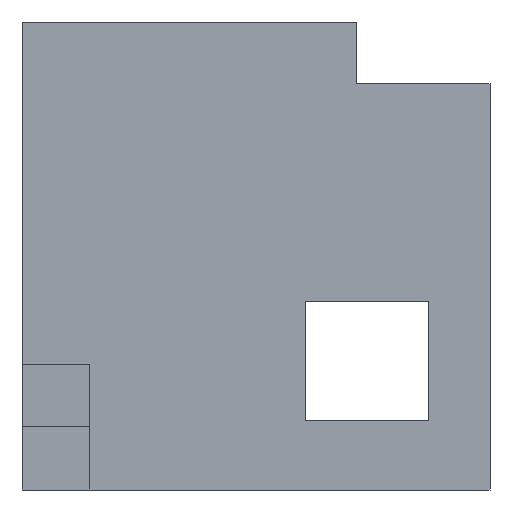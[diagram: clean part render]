
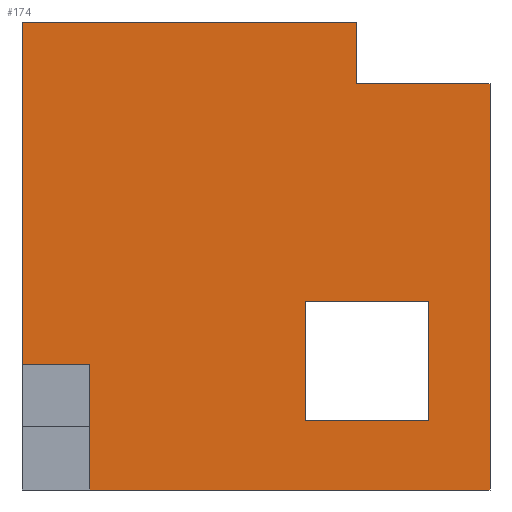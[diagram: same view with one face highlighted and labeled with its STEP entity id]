
A CAD part, left-side view. The second image highlights one B-rep face of the part: STEP entity #174.
In plain terms, the highlighted planar face has unit normal (-1, 0, 0).
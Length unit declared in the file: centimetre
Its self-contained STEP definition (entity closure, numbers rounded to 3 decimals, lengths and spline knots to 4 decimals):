
#1 = VECTOR ( 'NONE', #361, 100. ) ;
#4 = EDGE_CURVE ( 'NONE', #1434, #1042, #486, .T. ) ;
#78 = CARTESIAN_POINT ( 'NONE',  ( 0., 131.8463, 148.3526 ) ) ;
#96 = EDGE_CURVE ( 'NONE', #1219, #1232, #1339, .T. ) ;
#104 = CARTESIAN_POINT ( 'NONE',  ( 0., 1000., 268.689 ) ) ;
#111 = CARTESIAN_POINT ( 'NONE',  ( 0., 855.1713, 0. ) ) ;
#123 = EDGE_LOOP ( 'NONE', ( #754, #773, #828, #198, #516, #838, #503, #378 ) ) ;
#126 = PLANE ( 'NONE',  #579 ) ;
#138 = ORIENTED_EDGE ( 'NONE', *, *, #922, .T. ) ;
#144 = LINE ( 'NONE', #741, #1261 ) ;
#146 = EDGE_CURVE ( 'NONE', #408, #983, #777, .T. ) ;
#165 = EDGE_CURVE ( 'NONE', #370, #804, #215, .T. ) ;
#166 = VECTOR ( 'NONE', #752, 100. ) ;
#169 = ORIENTED_EDGE ( 'NONE', *, *, #478, .T. ) ;
#174 = ADVANCED_FACE ( 'NONE', ( #1327, #320 ), #126, .F. ) ;
#198 = ORIENTED_EDGE ( 'NONE', *, *, #96, .F. ) ;
#200 = CARTESIAN_POINT ( 'NONE',  ( 0., 1000., 1000. ) ) ;
#201 = DIRECTION ( 'NONE',  ( 0., 0., -1. ) ) ;
#215 = LINE ( 'NONE', #224, #1374 ) ;
#216 = DIRECTION ( 'NONE',  ( 0., 1., 0. ) ) ;
#224 = CARTESIAN_POINT ( 'NONE',  ( 0., 131.8463, 148.3526 ) ) ;
#242 = CARTESIAN_POINT ( 'NONE',  ( 0., 285.1789, 1000. ) ) ;
#251 = CARTESIAN_POINT ( 'NONE',  ( 0., 855.1713, 268.689 ) ) ;
#269 = ORIENTED_EDGE ( 'NONE', *, *, #165, .T. ) ;
#273 = DIRECTION ( 'NONE',  ( 0., 0., 1. ) ) ;
#280 = ORIENTED_EDGE ( 'NONE', *, *, #619, .T. ) ;
#315 = DIRECTION ( 'NONE',  ( 0., 1., 0. ) ) ;
#320 = FACE_OUTER_BOUND ( 'NONE', #123, .T. ) ;
#361 = DIRECTION ( 'NONE',  ( 0., 0., -1. ) ) ;
#363 = EDGE_CURVE ( 'NONE', #1042, #1232, #873, .T. ) ;
#365 = VECTOR ( 'NONE', #315, 100. ) ;
#370 = VERTEX_POINT ( 'NONE', #78 ) ;
#378 = ORIENTED_EDGE ( 'NONE', *, *, #146, .T. ) ;
#385 = VECTOR ( 'NONE', #570, 100. ) ;
#389 = DIRECTION ( 'NONE',  ( 0., 0., 1. ) ) ;
#408 = VERTEX_POINT ( 'NONE', #200 ) ;
#432 = DIRECTION ( 'NONE',  ( 0., 0., -1. ) ) ;
#466 = LINE ( 'NONE', #916, #1 ) ;
#478 = EDGE_CURVE ( 'NONE', #703, #370, #466, .T. ) ;
#484 = DIRECTION ( 'NONE',  ( 1., 0., 0. ) ) ;
#486 = LINE ( 'NONE', #251, #794 ) ;
#498 = LINE ( 'NONE', #832, #166 ) ;
#503 = ORIENTED_EDGE ( 'NONE', *, *, #731, .F. ) ;
#516 = ORIENTED_EDGE ( 'NONE', *, *, #1239, .T. ) ;
#570 = DIRECTION ( 'NONE',  ( 0., -1., 0. ) ) ;
#579 = AXIS2_PLACEMENT_3D ( 'NONE', #1165, #484, #1454 ) ;
#619 = EDGE_CURVE ( 'NONE', #804, #1207, #938, .T. ) ;
#652 = CARTESIAN_POINT ( 'NONE',  ( 0., 0., 1000. ) ) ;
#654 = CARTESIAN_POINT ( 'NONE',  ( 0., 0., 0. ) ) ;
#663 = CARTESIAN_POINT ( 'NONE',  ( 0., 0., 867.9736 ) ) ;
#689 = EDGE_CURVE ( 'NONE', #964, #990, #144, .T. ) ;
#703 = VERTEX_POINT ( 'NONE', #1285 ) ;
#731 = EDGE_CURVE ( 'NONE', #408, #990, #498, .T. ) ;
#741 = CARTESIAN_POINT ( 'NONE',  ( 0., 285.1789, 867.9736 ) ) ;
#743 = VECTOR ( 'NONE', #1322, 100. ) ;
#749 = VECTOR ( 'NONE', #432, 100. ) ;
#752 = DIRECTION ( 'NONE',  ( 0., -1., 0. ) ) ;
#754 = ORIENTED_EDGE ( 'NONE', *, *, #1138, .F. ) ;
#773 = ORIENTED_EDGE ( 'NONE', *, *, #4, .T. ) ;
#777 = LINE ( 'NONE', #1231, #955 ) ;
#794 = VECTOR ( 'NONE', #1168, 100. ) ;
#804 = VERTEX_POINT ( 'NONE', #893 ) ;
#821 = DIRECTION ( 'NONE',  ( 0., 1., 0. ) ) ;
#828 = ORIENTED_EDGE ( 'NONE', *, *, #363, .T. ) ;
#832 = CARTESIAN_POINT ( 'NONE',  ( 0., 1000., 1000. ) ) ;
#838 = ORIENTED_EDGE ( 'NONE', *, *, #689, .T. ) ;
#864 = LINE ( 'NONE', #1264, #385 ) ;
#873 = LINE ( 'NONE', #1120, #743 ) ;
#893 = CARTESIAN_POINT ( 'NONE',  ( 0., 394.7014, 148.3526 ) ) ;
#916 = CARTESIAN_POINT ( 'NONE',  ( 0., 131.8463, 148.3526 ) ) ;
#922 = EDGE_CURVE ( 'NONE', #1207, #703, #864, .T. ) ;
#938 = LINE ( 'NONE', #1276, #1146 ) ;
#955 = VECTOR ( 'NONE', #201, 100. ) ;
#964 = VERTEX_POINT ( 'NONE', #1349 ) ;
#974 = CARTESIAN_POINT ( 'NONE',  ( 0., 0., 867.9736 ) ) ;
#983 = VERTEX_POINT ( 'NONE', #104 ) ;
#990 = VERTEX_POINT ( 'NONE', #242 ) ;
#1042 = VERTEX_POINT ( 'NONE', #111 ) ;
#1120 = CARTESIAN_POINT ( 'NONE',  ( 0., 1000., 0. ) ) ;
#1138 = EDGE_CURVE ( 'NONE', #1434, #983, #1193, .T. ) ;
#1146 = VECTOR ( 'NONE', #389, 100. ) ;
#1161 = EDGE_LOOP ( 'NONE', ( #169, #269, #280, #138 ) ) ;
#1165 = CARTESIAN_POINT ( 'NONE',  ( 0., 1000., 1000. ) ) ;
#1168 = DIRECTION ( 'NONE',  ( 0., 0., -1. ) ) ;
#1193 = LINE ( 'NONE', #1270, #1352 ) ;
#1207 = VERTEX_POINT ( 'NONE', #1318 ) ;
#1219 = VERTEX_POINT ( 'NONE', #974 ) ;
#1231 = CARTESIAN_POINT ( 'NONE',  ( 0., 1000., 1000. ) ) ;
#1232 = VERTEX_POINT ( 'NONE', #654 ) ;
#1239 = EDGE_CURVE ( 'NONE', #1219, #964, #1414, .T. ) ;
#1261 = VECTOR ( 'NONE', #273, 100. ) ;
#1264 = CARTESIAN_POINT ( 'NONE',  ( 0., 131.8463, 403.7409 ) ) ;
#1270 = CARTESIAN_POINT ( 'NONE',  ( 0., 855.1713, 268.689 ) ) ;
#1276 = CARTESIAN_POINT ( 'NONE',  ( 0., 394.7014, 148.3526 ) ) ;
#1285 = CARTESIAN_POINT ( 'NONE',  ( 0., 131.8463, 403.7409 ) ) ;
#1318 = CARTESIAN_POINT ( 'NONE',  ( 0., 394.7014, 403.7409 ) ) ;
#1322 = DIRECTION ( 'NONE',  ( 0., -1., 0. ) ) ;
#1327 = FACE_BOUND ( 'NONE', #1161, .T. ) ;
#1339 = LINE ( 'NONE', #652, #749 ) ;
#1340 = CARTESIAN_POINT ( 'NONE',  ( 0., 855.1713, 268.689 ) ) ;
#1349 = CARTESIAN_POINT ( 'NONE',  ( 0., 285.1789, 867.9736 ) ) ;
#1352 = VECTOR ( 'NONE', #821, 100. ) ;
#1374 = VECTOR ( 'NONE', #216, 100. ) ;
#1414 = LINE ( 'NONE', #663, #365 ) ;
#1434 = VERTEX_POINT ( 'NONE', #1340 ) ;
#1454 = DIRECTION ( 'NONE',  ( 0., 0., -1. ) ) ;
